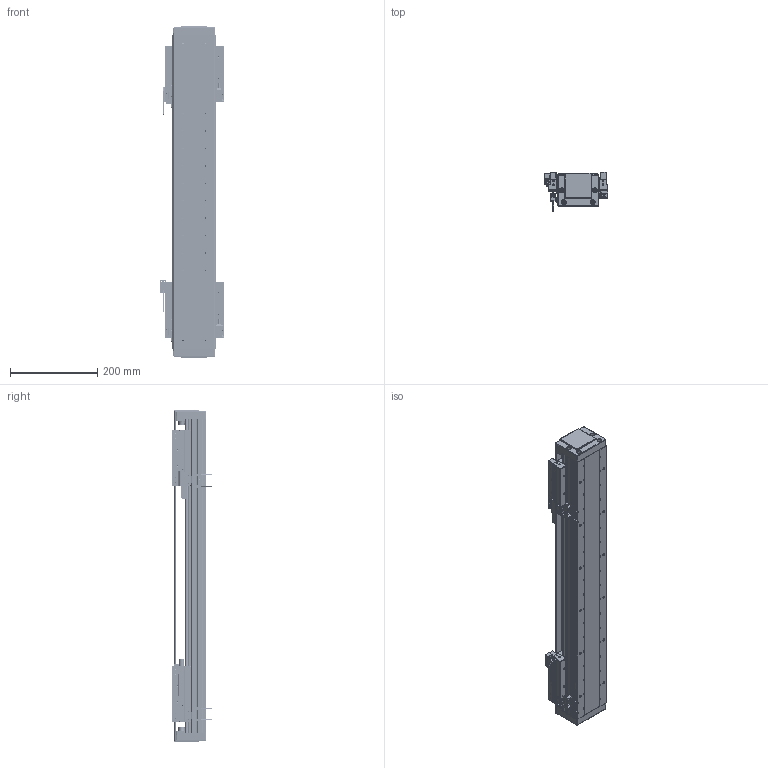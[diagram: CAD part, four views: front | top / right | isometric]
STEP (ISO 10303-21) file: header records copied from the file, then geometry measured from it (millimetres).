
FILE_DESCRIPTION (( 'STEP AP203' ), '1' );
FILE_NAME ('DA-B95-2-B15-T380-C010-0.2 直线电机.STEP', '2023-05-06T06:23:48', ( '微软用户' ), ( '微软中国' ), 'SwSTEP 2.0', 'SolidWorks 2019', '' );
FILE_SCHEMA (( 'CONFIG_CONTROL_DESIGN' ));
Length unit declared in the file: millimetre
Products named in the file (32): 复件 66245-BU95-HT-V-01 滑动台板^66245-BU95-V-00 一体化滑动台板; 复件 DA95-B15-YB-A-00 压板A^66245-BU95-V 滚珠滑台; 复件 DA95-B15-YB-B-00 压板B^66245-BU95-V 滚珠滑台; 复件 DA95-HK-GT-00 滑块钢轨^66245-BU95-V-00 一体化滑动台板; B15 XD-U-02L ｴﾅﾕ､ｳﾟ^DA-A95-B15-T-C010-0.2-N ﾖｱﾏﾟｵ扈銈XD-U-02L; DA-A95-GYP-00 光电感应片^DA-A95-B15-T-C010-0.2-N 直线电机; 葩璃 DA95-B15-DP--B-00 菜えB^66245-BU95-V 幗紩賑怢; DA95-HXJ-00 缓冲橡胶^DA-A95-B15-T-C010-0.2-N 直线电机; DA95-DG-H-01^DA-A95-B15-T-C010-0.2-N 眻盄萇儂; 葩璃 BKMA01-W060-TRL^DA-A95-B15-T-C010-0.2-N 眻盄萇儂; LMDK-2-R001-V5-L02-C1-F00，0.2M 读数头^DA-A95-B15-T-C010-0.2-N 直线电机_DMA-010-0.2; 66245-BU95-V 幗紩賑怢; 复件 DKW-GYP-ZJ-00 中间光电感应片^DA-A95-B15-T-C010-0.2-N 直线电机; ｸｴｼ DA95-Txxx-002-00 ｸﾇｰ蘓DA-A95-B15-T-C010-0.2-N ﾖｱﾏﾟｵ扈銈T+30; PM-T45 光电开关^DA-A95-B15-T-C010-0.2-N 直线电机; 复件 DA95-MFP-01 密封片^66245-BU95-V 滚珠滑台; 复件 六角薄螺母 M3^DA-A95-B15-T-C010-0.2-N 直线电机_GB_FASTENER_NUT_STNAB M3-C; 复件 DKW-KGZ-ZJ-00 中间光电开关支架^DA-A95-B15-T-C010-0.2-N 直线电机; 葩璃 PM-Y45^DA-A95-B15-T-C010-0.2-N 眻盄萇儂; DA-B95-2-B15-T380-C010-0.2 眻盄萇儂; IU-BU95-L-00 菁釱_L720; 复件 DA95-DK-00 挡块^66245-BU95-V 滚珠滑台; 66245-BU95-V-00 珨极趙賑雄怢啣; IU-BU95-L 菁釱絳寢; 复件 DKW-HXJ-JY-00 缓冲橡胶^DA-A95-B15-T-C010-0.2-N 直线电机; 复件 DA95-DB-00  挡板^66245-BU95-V 滚珠滑台; 葩璃 BKM015-W060-C1-TP-DA-0.2^DA-A95-B15-T-C010-0.2-N 眻盄萇儂; 葩璃 DA95-GT-T-00^IU-BU95-L 菁釱絳寢_DA95; 复件 纯铜油杯 6x6mm^66245-BU95-V 滚珠滑台; 葩璃 DA95-B15-DP-A-00 菜えA^66245-BU95-V 幗紩賑怢
Assembly tree (76 placements, depth 4):
  DA-B95-2-B15-T380-C010-0.2 眻盄萇儂
    IU-BU95-L 菁釱絳寢
      IU-BU95-L-00 菁釱_L720
      葩璃 DA95-GT-T-00^IU-BU95-L 菁釱絳寢_DA95  x2
    66245-BU95-V 幗紩賑怢
      66245-BU95-V-00 珨极趙賑雄怢啣
        复件 66245-BU95-HT-V-01 滑动台板^66245-BU95-V-00 一体化滑动台板
        复件 DA95-HK-GT-00 滑块钢轨^66245-BU95-V-00 一体化滑动台板  x2
      葩璃 DA95-B15-DP-A-00 菜えA^66245-BU95-V 幗紩賑怢
      复件 DA95-B15-YB-A-00 压板A^66245-BU95-V 滚珠滑台
      复件 DA95-B15-YB-B-00 压板B^66245-BU95-V 滚珠滑台
      复件 DA95-DB-00  挡板^66245-BU95-V 滚珠滑台  x4
      复件 DA95-DK-00 挡块^66245-BU95-V 滚珠滑台  x2
      复件 DA95-MFP-01 密封片^66245-BU95-V 滚珠滑台  x4
      复件 纯铜油杯 6x6mm^66245-BU95-V 滚珠滑台  x2
      葩璃 DA95-B15-DP--B-00 菜えB^66245-BU95-V 幗紩賑怢
    66245-BU95-V 幗紩賑怢
      66245-BU95-V-00 珨极趙賑雄怢啣
        复件 66245-BU95-HT-V-01 滑动台板^66245-BU95-V-00 一体化滑动台板
        复件 DA95-HK-GT-00 滑块钢轨^66245-BU95-V-00 一体化滑动台板  x2
      葩璃 DA95-B15-DP-A-00 菜えA^66245-BU95-V 幗紩賑怢
      复件 DA95-B15-YB-A-00 压板A^66245-BU95-V 滚珠滑台
      复件 DA95-B15-YB-B-00 压板B^66245-BU95-V 滚珠滑台
      复件 DA95-DB-00  挡板^66245-BU95-V 滚珠滑台  x4
      复件 DA95-DK-00 挡块^66245-BU95-V 滚珠滑台  x2
      复件 DA95-MFP-01 密封片^66245-BU95-V 滚珠滑台  x4
      复件 纯铜油杯 6x6mm^66245-BU95-V 滚珠滑台  x2
      葩璃 DA95-B15-DP--B-00 菜えB^66245-BU95-V 幗紩賑怢
    DA-A95-GYP-00 光电感应片^DA-A95-B15-T-C010-0.2-N 直线电机  x2
    LMDK-2-R001-V5-L02-C1-F00，0.2M 读数头^DA-A95-B15-T-C010-0.2-N 直线电机_DMA-010-0.2  x2
    复件 DKW-KGZ-ZJ-00 中间光电开关支架^DA-A95-B15-T-C010-0.2-N 直线电机
    葩璃 PM-Y45^DA-A95-B15-T-C010-0.2-N 眻盄萇儂
    复件 DKW-GYP-ZJ-00 中间光电感应片^DA-A95-B15-T-C010-0.2-N 直线电机
    葩璃 BKM015-W060-C1-TP-DA-0.2^DA-A95-B15-T-C010-0.2-N 眻盄萇儂  x2
    复件 DKW-HXJ-JY-00 缓冲橡胶^DA-A95-B15-T-C010-0.2-N 直线电机  x2
    PM-T45 光电开关^DA-A95-B15-T-C010-0.2-N 直线电机  x4
    B15 XD-U-02L ｴﾅﾕ､ｳﾟ^DA-A95-B15-T-C010-0.2-N ﾖｱﾏﾟｵ扈銈XD-U-02L
    DA95-DG-H-01^DA-A95-B15-T-C010-0.2-N 眻盄萇儂  x2
    ｸｴｼ DA95-Txxx-002-00 ｸﾇｰ蘓DA-A95-B15-T-C010-0.2-N ﾖｱﾏﾟｵ扈銈T+30
    DA95-HXJ-00 缓冲橡胶^DA-A95-B15-T-C010-0.2-N 直线电机  x4
    葩璃 BKMA01-W060-TRL^DA-A95-B15-T-C010-0.2-N 眻盄萇儂
    复件 六角薄螺母 M3^DA-A95-B15-T-C010-0.2-N 直线电机_GB_FASTENER_NUT_STNAB M3-C  x6
Bounding box: 145.4 x 90.2 x 760 mm (x, y, z)
Volume: 3530933.3 mm3; surface area: 1065784.1 mm2
Topology: 71 solids, 89 shells, 4154 faces, 10624 edges, 6525 vertices
Faces by surface type: cylinder 1756, plane 1446, cone 544, bspline 344, torus 60, sphere 4
Entity records: 79683 total; most frequent: CARTESIAN_POINT 21746, ORIENTED_EDGE 11186, DIRECTION 11113, EDGE_CURVE 5593, AXIS2_PLACEMENT_3D 4139, VERTEX_POINT 3540, LINE 2835, VECTOR 2835
